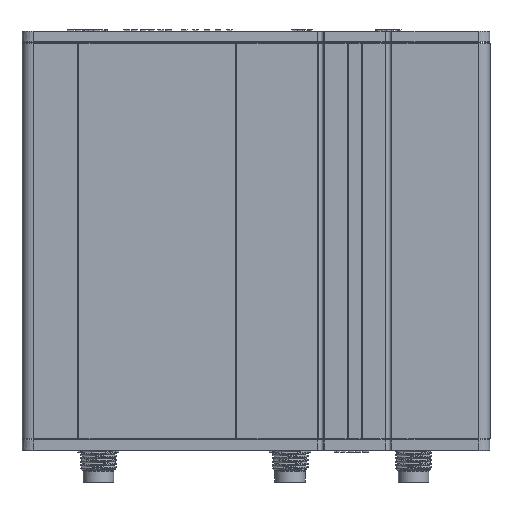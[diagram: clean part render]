
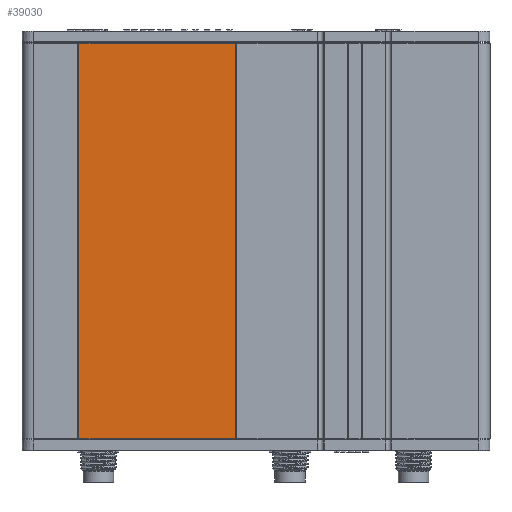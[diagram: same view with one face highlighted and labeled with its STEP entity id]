
A CAD part, front view. The second image highlights one B-rep face of the part: STEP entity #39030.
In plain terms, the highlighted planar face has unit normal (0, -1, 0).
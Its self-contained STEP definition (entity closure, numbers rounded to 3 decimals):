
#7604 = CARTESIAN_POINT ( 'NONE',  ( 10.1, 0.4, 70.2 ) ) ;
#7842 = FACE_OUTER_BOUND ( 'NONE', #151731, .T. ) ;
#14919 = DIRECTION ( 'NONE',  ( -1., 0., 0. ) ) ;
#14941 = CARTESIAN_POINT ( 'NONE',  ( 10., 0.4, 70.2 ) ) ;
#19723 = DIRECTION ( 'NONE',  ( -1., 0., 0. ) ) ;
#19747 = CARTESIAN_POINT ( 'NONE',  ( 10., 0.4, 0. ) ) ;
#39030 = ADVANCED_FACE ( 'NONE', ( #7842 ), #48210, .F. ) ;
#45121 = LINE ( 'NONE', #14941, #45154 ) ;
#45154 = VECTOR ( 'NONE', #14919, 1000. ) ;
#46492 = VECTOR ( 'NONE', #19723, 1000. ) ;
#46586 = LINE ( 'NONE', #19747, #46492 ) ;
#46890 = LINE ( 'NONE', #134587, #46967 ) ;
#46967 = VECTOR ( 'NONE', #134528, 1000. ) ;
#46996 = LINE ( 'NONE', #134750, #47022 ) ;
#47022 = VECTOR ( 'NONE', #134767, 1000. ) ;
#48156 = CARTESIAN_POINT ( 'NONE',  ( 10., 0.4, 0. ) ) ;
#48159 = DIRECTION ( 'NONE',  ( 0., 0., 1. ) ) ;
#48172 = DIRECTION ( 'NONE',  ( 0., 1., 0. ) ) ;
#48210 = PLANE ( 'NONE',  #67435 ) ;
#67435 = AXIS2_PLACEMENT_3D ( 'NONE', #48156, #48172, #48159 ) ;
#75339 = VERTEX_POINT ( 'NONE', #7604 ) ;
#75399 = VERTEX_POINT ( 'NONE', #110348 ) ;
#75690 = VERTEX_POINT ( 'NONE', #108007 ) ;
#75743 = VERTEX_POINT ( 'NONE', #108011 ) ;
#106397 = ORIENTED_EDGE ( 'NONE', *, *, #153873, .T. ) ;
#108007 = CARTESIAN_POINT ( 'NONE',  ( 10.1, 0.4, 0. ) ) ;
#108011 = CARTESIAN_POINT ( 'NONE',  ( 37.9, 0.4, 0. ) ) ;
#110348 = CARTESIAN_POINT ( 'NONE',  ( 37.9, 0.4, 70.2 ) ) ;
#134528 = DIRECTION ( 'NONE',  ( 0., 0., -1. ) ) ;
#134587 = CARTESIAN_POINT ( 'NONE',  ( 10.1, 0.4, 0. ) ) ;
#134750 = CARTESIAN_POINT ( 'NONE',  ( 37.9, 0.4, 70.2 ) ) ;
#134767 = DIRECTION ( 'NONE',  ( 0., 0., 1. ) ) ;
#144335 = ORIENTED_EDGE ( 'NONE', *, *, #149184, .T. ) ;
#144338 = ORIENTED_EDGE ( 'NONE', *, *, #149163, .T. ) ;
#144365 = ORIENTED_EDGE ( 'NONE', *, *, #149039, .F. ) ;
#149039 = EDGE_CURVE ( 'NONE', #75743, #75690, #46586, .T. ) ;
#149163 = EDGE_CURVE ( 'NONE', #75339, #75690, #46890, .T. ) ;
#149184 = EDGE_CURVE ( 'NONE', #75743, #75399, #46996, .T. ) ;
#151731 = EDGE_LOOP ( 'NONE', ( #106397, #144338, #144365, #144335 ) ) ;
#153873 = EDGE_CURVE ( 'NONE', #75399, #75339, #45121, .T. ) ;
